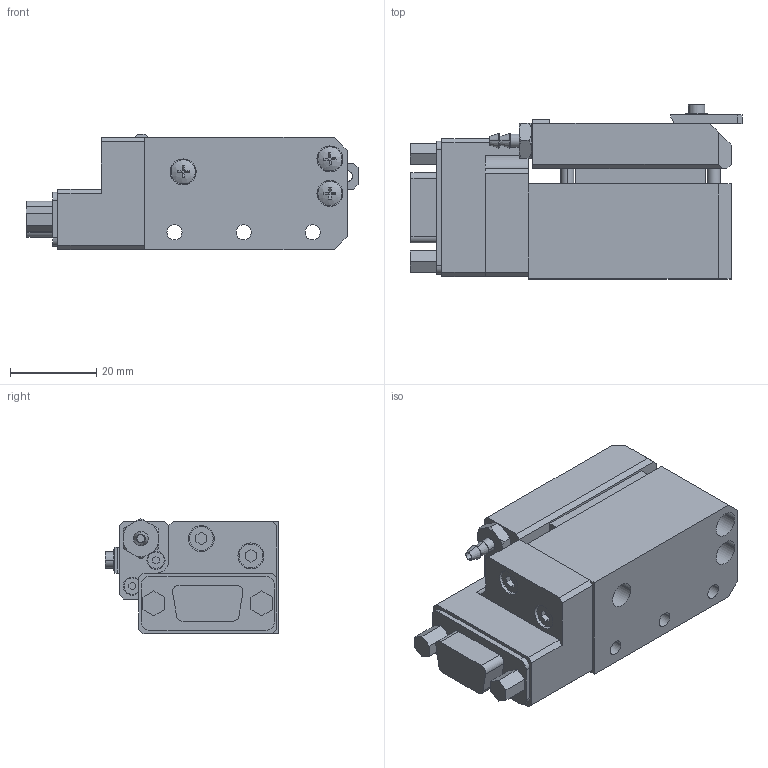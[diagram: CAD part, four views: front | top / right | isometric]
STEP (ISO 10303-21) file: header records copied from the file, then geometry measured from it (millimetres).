
FILE_DESCRIPTION (( 'STEP AP203' ), '1' );
FILE_NAME ('F274-18_1.STEP', '2023-01-18T07:56:35', ( '' ), ( '' ), 'SwSTEP 2.0', 'SolidWorks 2017', '' );
FILE_SCHEMA (( 'CONFIG_CONTROL_DESIGN' ));
Length unit declared in the file: millimetre
Products named in the file (10): F274-18-prt5; F274-18-prt8; F274-18_1; F274-18-prt0; F274-18-prt6; F274-18-prt7; F274-18-prt2; F274-18-prt3; F274-18-prt1; F274-18-prt4
Assembly tree (9 placements, depth 2):
  F274-18_1
    F274-18-prt0
    F274-18-prt1
    F274-18-prt2
    F274-18-prt3
    F274-18-prt4
    F274-18-prt5
    F274-18-prt6
    F274-18-prt7
    F274-18-prt8
Bounding box: 76.9 x 40.3 x 26.68 mm (x, y, z)
Volume: 40931.6 mm3; surface area: 18690.6 mm2
Topology: 9 solids, 24 shells, 669 faces, 1646 edges, 1076 vertices
Faces by surface type: plane 346, cylinder 241, bspline 42, cone 31, torus 6, sphere 3
Entity records: 21620 total; most frequent: CARTESIAN_POINT 4469, DIRECTION 3433, ORIENTED_EDGE 3248, EDGE_CURVE 1624, AXIS2_PLACEMENT_3D 1253, VERTEX_POINT 1076, LINE 927, VECTOR 927
